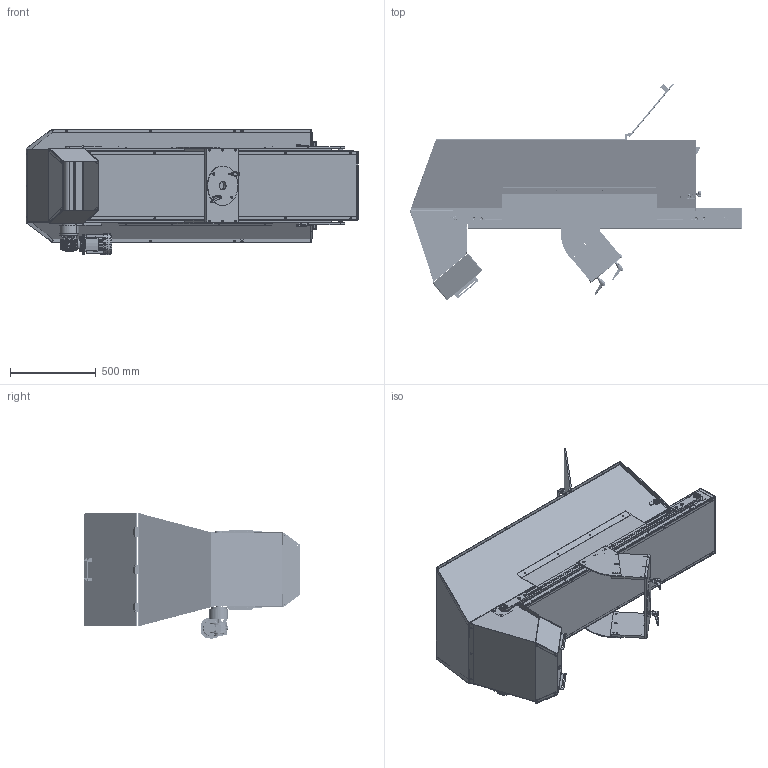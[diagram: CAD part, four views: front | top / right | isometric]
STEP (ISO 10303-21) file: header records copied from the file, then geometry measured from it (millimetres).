
FILE_DESCRIPTION (( 'STEP AP214' ), '1' );
FILE_NAME ('GM000488.STEP', '2022-06-21T08:52:28', ( '' ), ( '' ), 'SwSTEP 2.0', 'SolidWorks 2020', '' );
FILE_SCHEMA (( 'AUTOMOTIVE_DESIGN' ));
Length unit declared in the file: millimetre
Products named in the file (70): Copia di CARICATORE_CHIUSURA_CUFFIA_POL2^CM000782; Copia (2) di CARICATORE_TRAMOGGIA_LATO_SX^CM000782; Copia (2) di CARICATORE_MANOPOLA_LOBI_2^CM000782; Copia di CARICATORE_CHIAVETTA_RIDUTTORE^CM000782; Copia di CARICATORE_ROND_CHIUS_RIDUTTORE^CM000782; Copia (2) di CARICATORE_RULLO_TAPPO^CM000782; Copia (2) di CARICATORE_TAPPETO^CM000782; CARICATORE_SERRAGGIO_DIR_FISS(2)^Copia (2) di CARICATORE_SERRAGGIO_DIR_ASS_ASM_CM000782; Copia (2) di CARICATORE_CHIUSURA_CUFFIA_1^CM000782; Copia di CARICATORE_ALBERO_RIDUTTORE^CM000782; Copia (2) di CARICATORE_SERRAGGIO_DIR_ASS_ASM^CM000782; Copia (2) di CARICATORE_CUFFIA_DI_SCARICO^CM000782; Copia (2) di CARICATORE_CUSCINETTO^CM000782; CARICATORE_CERNIERA_CORPO(2)^Copia (2) di CARICATORE_CERNIERA_ASSIEME_ASM_CM000782; Copia (2) di CARICATORE_PIATTO_CERNIERE_POST^CM000782; CM000782_Destra; Copia di MANOPOLA_12X40^CM000782; Copia di CARICATORE_TRAVERSA_SOST^CM000782; Copia (2) di CARICATORE_TENDINASTRO^CM000782; PD001825; Copia (2) di CARICATORE_GOMMATURA_RULLO_MOTO^CM000782; CARICATORE_SERRAGGIO_DIR_LEVA(2)^Copia (2) di CARICATORE_SERRAGGIO_DIR_ASS_ASM_CM000782; Copia di CARICATORE_SUP_PIATTO_VERT^CM000782; Copia (2) di CARICATORE_PROFILO_POLIZENE_SX^CM000782; Copia (2) di CARICATORE_CHIUSURA_CUFFIA_2^CM000782; Copia (2) di CARICATORE_TRAV_PORTACER^CM000782; Copia di CARICATORE_PERNO_MOTORE^CM000782; CARICATORE_CERNIERA_CORPO(2)^Copia (2) di CARICATORE_CERNIERA_POST_ASS_ASM_CM000782; Copia (2) di CARICATORE_CUFFIA_SUPERIORE^CM000782; Copia (2) di CARICATORE_FERMA_PEZZI^CM000782; Copia (2) di CARICATORE_SUPP_SPONDA_SX^CM000782; Copia (2) di CARICATORE_TRAMOGG_LATO_CAR^CM000782; Copia (2) di CARICATORE_FIANCO_DI_RITORNO_SX^CM000782; GM000488; Copia (2) di CARICATORE_RULLO_PROFILO^CM000782; Copia (2) di CARICATORE_PROFILO_POLIZENE_DX^CM000782; Copia (2) di CARICATORE_LONGHERONE^CM000782; Copia (2) di CARICATORE_TRAMOG_LATO_SCARICO^CM000782; Copia (2) di CARICATORE_TRAVERSA^CM000782; Copia (2) di CARICATORE_LAMIERA_FONDO^CM000782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
Assembly tree (100 placements, depth 4):
  GM000488
    CM000782_Destra
      Copia (2) di CARICATORE_CERNIERA_ASSIEME_ASM^CM000782  x3
        CARICATORE_CERNIERA_CORPO(2)^Copia (2) di CARICATORE_CERNIERA_ASSIEME_ASM_CM000782
        CARICATORE_CERNIERA_ALETTA(2)^Copia (2) di CARICATORE_CERNIERA_ASSIEME_ASM_CM000782
      Copia (2) di CARICATORE_CERNIERA_POST_ASS_ASM^CM000782  x3
        CARICATORE_CERNIERA_CORPO(2)^Copia (2) di CARICATORE_CERNIERA_POST_ASS_ASM_CM000782
        CARICATORE_CERNIERA_ALETTA(2)^Copia (2) di CARICATORE_CERNIERA_POST_ASS_ASM_CM000782
      Copia (2) di CARICATORE_SERRAGGIO_DIR_ASS_ASM^CM000782  x2
        CARICATORE_SERRAGGIO_DIR_FISS(2)^Copia (2) di CARICATORE_SERRAGGIO_DIR_ASS_ASM_CM000782
        CARICATORE_SERRAGGIO_DIR_LEVA(2)^Copia (2) di CARICATORE_SERRAGGIO_DIR_ASS_ASM_CM000782
        CARICATORE_SERRAGGIO_DIR_GANCIO(2)^Copia (2) di CARICATORE_SERRAGGIO_DIR_ASS_ASM_CM000782
      Copia (2) di CARICATORE_RULLO_PROFILO^CM000782  x2
      Copia (2) di CARICATORE_GOMMATURA_RULLO_MOTO^CM000782
      Copia (2) di CARICATORE_RULLO_TAPPO^CM000782  x4
      Copia di CARICATORE_PERNO_MOTORE^CM000782
      Copia (2) di CARICATORE_PERNO_RINVIO^CM000782  x3
      Copia (2) di CARICATORE_CUSCINETTO^CM000782  x3
      Copia (2) di CARICATORE_FLANGIA_RINVIO^CM000782  x3
      Copia (2) di CARICATORE_LONGHERONE^CM000782  x2
      Copia (2) di CARICATORE_TRAVERSA^CM000782  x3
      Copia (2) di CARICATORE_PROFILO_POLIZENE_SX^CM000782
      Copia (2) di CARICATORE_PROFILO_POLIZENE_DX^CM000782
      Copia (2) di CARICATORE_FLANGIA_PORTAMOT^CM000782
      Copia di CARICATORE_MOTORIDUTTORE_F^CM000782
      Copia di CARICATORE_ALBERO_RIDUTTORE^CM000782
      Copia di CARICATORE_CHIAVETTA_LATO_TAMB^CM000782
      Copia di CARICATORE_CHIAVETTA_LATO_RIDUT^CM000782
      Copia di CARICATORE_CHIAVETTA_RIDUTTORE^CM000782  x2
      Copia di CARICATORE_ROND_CHIUS_RIDUTTORE^CM000782
      Copia di CARICATORE_DISTANZIALE_MOTORID^CM000782
      Copia (2) di CARICATORE_CUSCIN_MOTORE^CM000782
      Copia (2) di CARICATORE_TENDINASTRO^CM000782  x2
      Copia (2) di CARICATORE_SUPP_SPONDA_DX^CM000782
      Copia (2) di CARICATORE_SUPP_SPONDA_SX^CM000782
      Copia (2) di CARICATORE_LAMIERA_FONDO^CM000782
      Copia (2) di CARICATORE_TAPPETO^CM000782
      Copia (2) di CARICATORE_TRAMOGGIA_LATO_DX^CM000782
      Copia (2) di CARICATORE_TRAMOGGIA_LATO_SX^CM000782
      Copia (2) di CARICATORE_TRAMOGG_LATO_CAR^CM000782
      Copia (2) di CARICATORE_PROFILO_POLIZENE_INF^CM000782  x2
      Copia (2) di CARICATORE_FIANCO_DI_RITORNO_SX^CM000782
      Copia (2) di CARICATORE_FIANCO_DI_RITORNO_DX^CM000782
      Copia (2) di CARICATORE_CUFFIA_DI_RITORNO^CM000782
      Copia (2) di CARICATORE_LAM_DI_RITORNO_FONDO^CM000782
      Copia (2) di CARICATORE_CUFFIA_DI_SCARICO^CM000782
      Copia (2) di CARICATORE_CUFFIA_SUPERIORE^CM000782
      Copia (2) di CARICATORE_PIATTO_CAVA_PROF^CM000782  x2
      Copia (2) di CARICATORE_TRAMOG_LATO_SCARICO^CM000782
      Copia (2) di CARICATORE_CHIUSURA_TEN_LAT^CM000782  x2
      Copia (2) di CARICATORE_TRAV_PORTACER^CM000782
      Copia (2) di CARICATORE_PORTELLA_CARICO^CM000782
      Copia (2) di CARICATORE_MANIGLIA^CM000782
      Copia (2) di CARICATORE_PIATTO_CERNIERE_POST^CM000782
      Copia (2) di CARICATORE_PORTELLA_POSTERIORE^CM000782
      Copia (2) di CARICATORE_MANOPOLA_LOBI_2^CM000782
      Copia (2) di CARICATORE_CHIUSURA_CUFFIA_2^CM000782
      Copia (2) di CARICATORE_CHIUSURA_CUFFIA_1^CM000782
      Copia (2) di CARICATORE_DISTA_CHIUS_CUFFIA^CM000782  x4
      Copia (2) di CARICATORE_FERMA_PEZZI^CM000782
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Bounding box: 1934.51 x 1262.16 x 729.6 mm (x, y, z)
Volume: 21946541.1 mm3; surface area: 19656602.3 mm2
Topology: 90 solids, 255 shells, 5830 faces, 15309 edges, 9875 vertices
Faces by surface type: plane 2625, cylinder 2251, cone 533, bspline 190, torus 183, sphere 48
Entity records: 196979 total; most frequent: CARTESIAN_POINT 86384, ORIENTED_EDGE 23563, DIRECTION 19255, EDGE_CURVE 11969, VERTEX_POINT 7733, AXIS2_PLACEMENT_3D 7158, EDGE_LOOP 5442, VECTOR 4939
